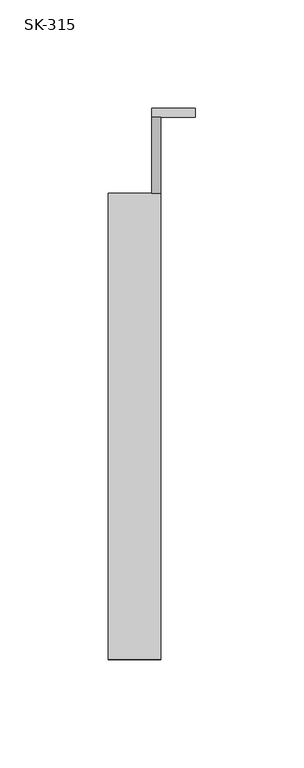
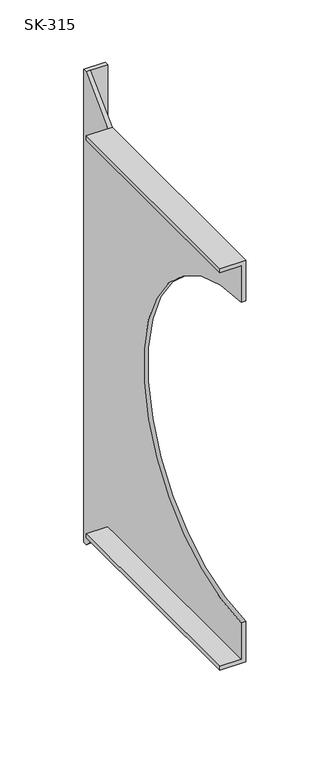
"""IFC4 building model written with IfcOpenShell, lengths in millimetres: duct fitting geometry, СВ_Кронштейн_Круглый_DN100-315_SK : SK-315."""

from ifc_helpers import new_model, si_unit, frame, origin, place, context, project, spatial, polyline, circle_curve, source, transform, mapped, element, save
from ifc_brep_helpers import plane_surface, revolved_surface, advanced_brep


def sk_315_724401cd(model_context):
    return source(origin(), model_context, "Body", "AdvancedBrep", [
        advanced_brep(
        [(4.0, 250.0, 232.5), (4.0, 215.0, 197.5), (4.0, 0.0, 197.5), (4.0, 0.0, 157.5), (4.0, 0.0, -157.5), (4.0, 0.0, -197.5), (4.0, 215.0, -197.5), (4.0, 250.0, -232.5), (0.0, 250.0, -232.5), (0.0, 215.0, -197.5), (0.0, 215.0, -193.5), (0.0, 0.0, -193.5), (0.0, 0.0, -157.5), (0.0, 0.0, 157.5), (0.0, 0.0, 193.5), (0.0, 215.0, 193.5), (0.0, 215.0, 197.5), (0.0, 250.0, 232.5), (0.0, 254.0, 232.5), (0.0, 254.0, -232.5), (-20.0, 215.0, 197.5), (-20.0, 0.0, 197.5), (-20.0, 0.0, 193.5), (-20.0, 0.0, -193.5), (-20.0, 0.0, -197.5), (-20.0, 215.0, -197.5), (-20.0, 215.0, -193.5), (-20.0, 215.0, 193.5), (20.0, 250.0, -232.5), (20.0, 254.0, -232.5), (20.0, 254.0, 232.5), (20.0, 250.0, 232.5)],
        [
            (0, 1),
            (1, 2),
            (2, 3),
            (3, 4, circle_curve(frame((4.0, 0.0, 0.0), z_axis=(-1.0, 0.0, 0.0), x_axis=(0.0, 1.0, 0.0)), 157.5)),
            (4, 5),
            (5, 6),
            (6, 7),
            (7, 0),
            (8, 9),
            (9, 10),
            (10, 11),
            (11, 12),
            (12, 13, circle_curve(frame((0.0, 0.0, 0.0), z_axis=(1.0, 0.0, 0.0), x_axis=(0.0, 1.0, 0.0)), 157.5)),
            (13, 14),
            (14, 15),
            (15, 16),
            (16, 17),
            (17, 18),
            (18, 19),
            (19, 8),
            (0, 17),
            (16, 1),
            (16, 20),
            (20, 21),
            (21, 2),
            (21, 22),
            (22, 14),
            (13, 3),
            (12, 4),
            (11, 23),
            (23, 24),
            (24, 5),
            (24, 25),
            (25, 9),
            (9, 6),
            (8, 7),
            (23, 26),
            (26, 25),
            (27, 22),
            (20, 27),
            (15, 27),
            (26, 10),
            (28, 29),
            (29, 30),
            (30, 31),
            (31, 28),
            (19, 29),
            (28, 7),
            (18, 30),
            (0, 31),
        ],
        [
            plane_surface(frame((4.0, 250.0, 232.5), z_axis=(1.0, 0.0, 0.0), x_axis=(0.0, 0.0, 1.0))),
            plane_surface(frame((0.0, 250.0, 232.5), z_axis=(-1.0, 0.0, 0.0), x_axis=(0.0, 0.0, -1.0))),
            plane_surface(frame((4.0, 250.0, 232.5), z_axis=(0.0, -0.7071067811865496, 0.7071067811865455), x_axis=(-1.0, 0.0, 0.0))),
            plane_surface(frame((4.0, 215.0, 197.5), z_axis=(0.0, 0.0, 1.0), x_axis=(-1.0, 0.0, 0.0))),
            plane_surface(frame((4.0, 0.0, 197.5), z_axis=(0.0, -1.0, 0.0), x_axis=(-1.0, 0.0, 0.0))),
            revolved_surface(polyline([(0.0, 157.5, 0.0), (4.0, 157.5, 0.0)]), (0.0, 0.0, 0.0), (-1.0, 0.0, 0.0)),
            plane_surface(frame((4.0, 0.0, -157.5), z_axis=(0.0, -1.0, 0.0), x_axis=(-1.0, 0.0, 0.0))),
            plane_surface(frame((4.0, 0.0, -197.5), z_axis=(0.0, 0.0, -1.0), x_axis=(-1.0, 0.0, 0.0))),
            plane_surface(frame((4.0, 215.0, -197.5), z_axis=(0.0, -0.7071067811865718, -0.7071067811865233), x_axis=(-1.0, 0.0, 0.0))),
            plane_surface(frame((-20.0, 215.0, 197.5), z_axis=(-1.0, 0.0, 0.0), x_axis=(0.0, 0.0, -1.0))),
            plane_surface(frame((0.0, 215.0, 193.5), z_axis=(0.0, 1.0, 0.0), x_axis=(-1.0, 0.0, 0.0))),
            plane_surface(frame((0.0, 0.0, 193.5), z_axis=(0.0, 0.0, -1.0), x_axis=(-1.0, 0.0, 0.0))),
            plane_surface(frame((0.0, 215.0, -197.5), z_axis=(0.0, 1.0, 0.0), x_axis=(-1.0, 0.0, 0.0))),
            plane_surface(frame((0.0, 215.0, -193.5), z_axis=(0.0, 0.0, 1.0), x_axis=(-1.0, 0.0, 0.0))),
            plane_surface(frame((20.0, 250.0, -232.5), z_axis=(1.0, 0.0, 0.0), x_axis=(0.0, 1.0, 0.0))),
            plane_surface(frame((20.0, 250.0, -232.5), z_axis=(0.0, 0.0, -1.0), x_axis=(-1.0, 0.0, 0.0))),
            plane_surface(frame((20.0, 254.0, -232.5), z_axis=(0.0, 1.0, 0.0), x_axis=(-1.0, 0.0, 0.0))),
            plane_surface(frame((20.0, 254.0, 232.5), z_axis=(0.0, 0.0, 1.0), x_axis=(-1.0, 0.0, 0.0))),
            plane_surface(frame((20.0, 250.0, 232.5), z_axis=(0.0, -1.0, 0.0), x_axis=(-1.0, 0.0, 0.0))),
        ],
        [
            (0, [[1, 2, 3, 4, 5, 6, 7, 8]]),
            (1, [[9, 10, 11, 12, 13, 14, 15, 16, 17, 18, 19, 20]]),
            (2, [[-1, 21, -17, 22]]),
            (3, [[-2, -22, 23, 24, 25]]),
            (4, [[-3, -25, 26, 27, -14, 28]]),
            (5, [[-4, -28, -13, 29]]),
            (6, [[-5, -29, -12, 30, 31, 32]]),
            (7, [[-6, -32, 33, 34, 35]]),
            (8, [[-7, -35, -9, 36]]),
            (9, [[-33, -31, 37, 38]]),
            (9, [[39, -26, -24, 40]]),
            (10, [[-40, -23, -16, 41]]),
            (11, [[-39, -41, -15, -27]]),
            (12, [[-38, 42, -10, -34]]),
            (13, [[-37, -30, -11, -42]]),
            (14, [[43, 44, 45, 46]]),
            (15, [[-20, 47, -43, 48, -36]]),
            (16, [[-19, 49, -44, -47]]),
            (17, [[-18, -21, 50, -45, -49]]),
            (18, [[-46, -50, -8, -48]]),
        ],
    ),
    ])


if __name__ == "__main__":
    model = new_model("IFC4")
    model_context = context("Model", 3, world=origin())
    ifc_project = project(units=[si_unit("LENGTHUNIT", "METRE", prefix="MILLI")], contexts=[model_context])
    site = spatial("IfcSite", under=ifc_project)
    building = spatial("IfcBuilding", under=site)
    placement = place(None, origin())
    sk_315_shape = sk_315_724401cd(model_context)
    element("IfcDuctFitting", 1, ObjectType="СВ_Кронштейн_Круглый_DN100-315_SK : SK-315", at=placement, inside=building, context=model_context, shape_type="MappedRepresentation", body=[
        mapped(sk_315_shape, transform((0.0, 0.0, 0.0), x_axis=(1.0, 0.0, 0.0), y_axis=(0.0, 1.0, 0.0), z_axis=(0.0, 0.0, 1.0))),
    ])
    save(model, "model.ifc")
